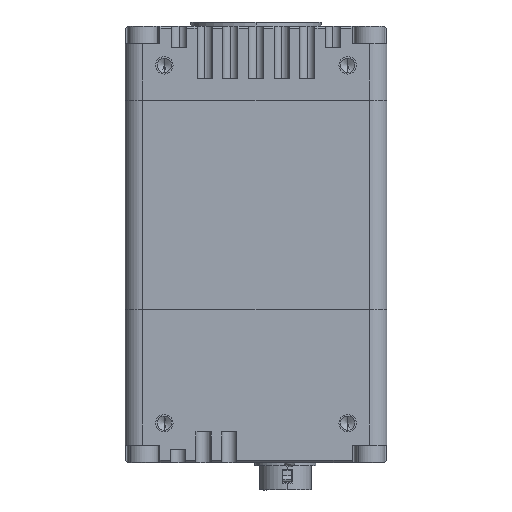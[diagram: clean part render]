
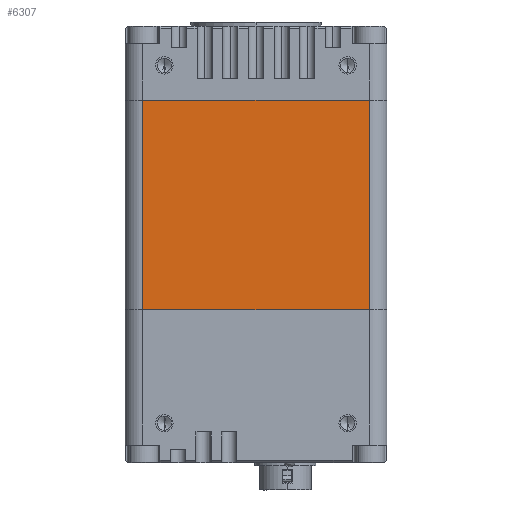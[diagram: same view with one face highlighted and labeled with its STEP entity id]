
A CAD part, left-side view. The second image highlights one B-rep face of the part: STEP entity #6307.
In plain terms, the highlighted planar face has unit normal (-1, 0, 0).
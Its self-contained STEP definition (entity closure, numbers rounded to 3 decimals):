
#27 = VERTEX_POINT ( 'NONE', #58667 ) ;
#1252 = DIRECTION ( 'NONE',  ( 0., 1., 0. ) ) ;
#3519 = VERTEX_POINT ( 'NONE', #46628 ) ;
#6307 = ADVANCED_FACE ( 'NONE', ( #30044 ), #44920, .F. ) ;
#8212 = LINE ( 'NONE', #51011, #32854 ) ;
#10841 = DIRECTION ( 'NONE',  ( 0., 0., -1. ) ) ;
#12525 = ORIENTED_EDGE ( 'NONE', *, *, #68735, .F. ) ;
#13310 = VECTOR ( 'NONE', #37450, 1000. ) ;
#17874 = LINE ( 'NONE', #33787, #49346 ) ;
#18421 = LINE ( 'NONE', #69929, #13310 ) ;
#20549 = VERTEX_POINT ( 'NONE', #61224 ) ;
#24615 = VERTEX_POINT ( 'NONE', #53851 ) ;
#26975 = EDGE_CURVE ( 'NONE', #20549, #3519, #17874, .T. ) ;
#28169 = CARTESIAN_POINT ( 'NONE',  ( -30., 26., 1. ) ) ;
#28398 = CARTESIAN_POINT ( 'NONE',  ( -30., 26., 118.853 ) ) ;
#30044 = FACE_OUTER_BOUND ( 'NONE', #34151, .T. ) ;
#32854 = VECTOR ( 'NONE', #56469, 1000. ) ;
#33787 = CARTESIAN_POINT ( 'NONE',  ( -30., 26., 118.853 ) ) ;
#33883 = ORIENTED_EDGE ( 'NONE', *, *, #56655, .F. ) ;
#34151 = EDGE_LOOP ( 'NONE', ( #12525, #64092, #33883, #43009 ) ) ;
#37450 = DIRECTION ( 'NONE',  ( 0., 0., -1. ) ) ;
#39256 = DIRECTION ( 'NONE',  ( 0., 0., -1. ) ) ;
#40714 = LINE ( 'NONE', #28169, #61023 ) ;
#43009 = ORIENTED_EDGE ( 'NONE', *, *, #26975, .T. ) ;
#44920 = PLANE ( 'NONE',  #45972 ) ;
#45972 = AXIS2_PLACEMENT_3D ( 'NONE', #28398, #70252, #10841 ) ;
#46628 = CARTESIAN_POINT ( 'NONE',  ( -30., 26., 1. ) ) ;
#49346 = VECTOR ( 'NONE', #39256, 1000. ) ;
#51011 = CARTESIAN_POINT ( 'NONE',  ( -30., 26., 49. ) ) ;
#53851 = CARTESIAN_POINT ( 'NONE',  ( -30., -26., 49. ) ) ;
#56469 = DIRECTION ( 'NONE',  ( 0., -1., 0. ) ) ;
#56655 = EDGE_CURVE ( 'NONE', #20549, #24615, #8212, .T. ) ;
#58667 = CARTESIAN_POINT ( 'NONE',  ( -30., -26., 1. ) ) ;
#61023 = VECTOR ( 'NONE', #1252, 1000. ) ;
#61224 = CARTESIAN_POINT ( 'NONE',  ( -30., 26., 49. ) ) ;
#64092 = ORIENTED_EDGE ( 'NONE', *, *, #69666, .F. ) ;
#68735 = EDGE_CURVE ( 'NONE', #27, #3519, #40714, .T. ) ;
#69666 = EDGE_CURVE ( 'NONE', #24615, #27, #18421, .T. ) ;
#69929 = CARTESIAN_POINT ( 'NONE',  ( -30., -26., 118.853 ) ) ;
#70252 = DIRECTION ( 'NONE',  ( 1., 0., 0. ) ) ;
